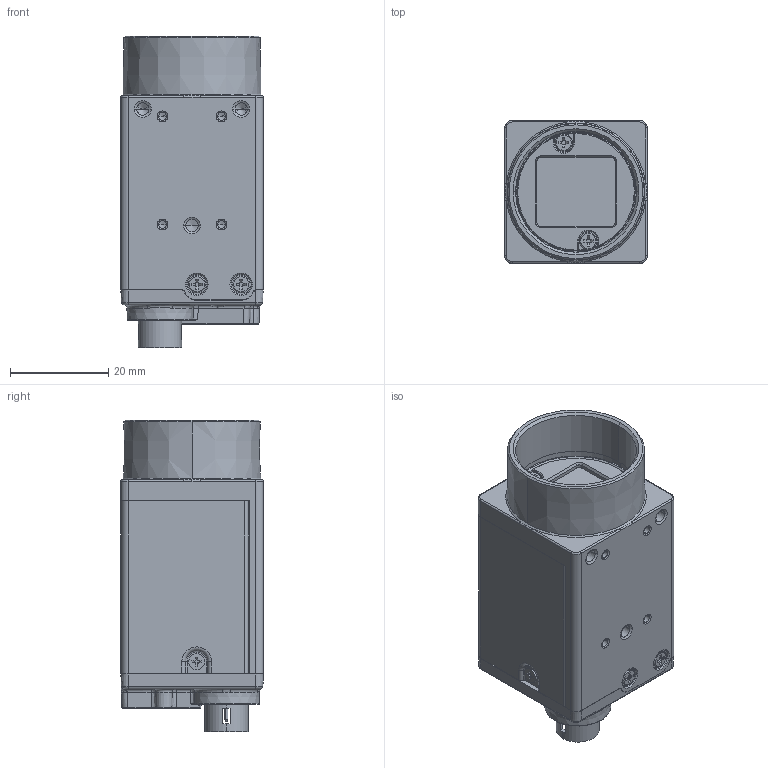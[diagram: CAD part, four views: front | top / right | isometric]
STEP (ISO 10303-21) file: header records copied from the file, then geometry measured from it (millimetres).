
FILE_DESCRIPTION((''),'2;1');
FILE_NAME('DH9-RDI000304-6031_AF0_1','2023-11-22T16:30:06',('21511'),(''),'CREO PARAMETRIC BY PTC INC, 2020184','CREO PARAMETRIC BY PTC INC, 2020184','');
FILE_SCHEMA(('CONFIG_CONTROL_DESIGN','SHAPE_APPEARANCE_LAYERS_GROUPS'));
Products named in the file (1): DH9-RDI000304-6031_AF0_1
Bounding box: 29 x 29 x 63.25 mm (x, y, z)
Volume: 36059.5 mm3; surface area: 21785.9 mm2
Topology: 1 solids, 13 shells, 2025 faces, 5441 edges, 3432 vertices
Faces by surface type: plane 1063, cylinder 565, cone 187, bspline 79, extrusion 57, torus 52, sphere 22
Entity records: 85436 total; most frequent: CARTESIAN_POINT 18670, ORIENTED_EDGE 10758, DIRECTION 9946, PRESENTATION_STYLE_ASSIGNMENT 5419, STYLED_ITEM 5380, CURVE_STYLE 5379, EDGE_CURVE 5379, VECTOR 3522
